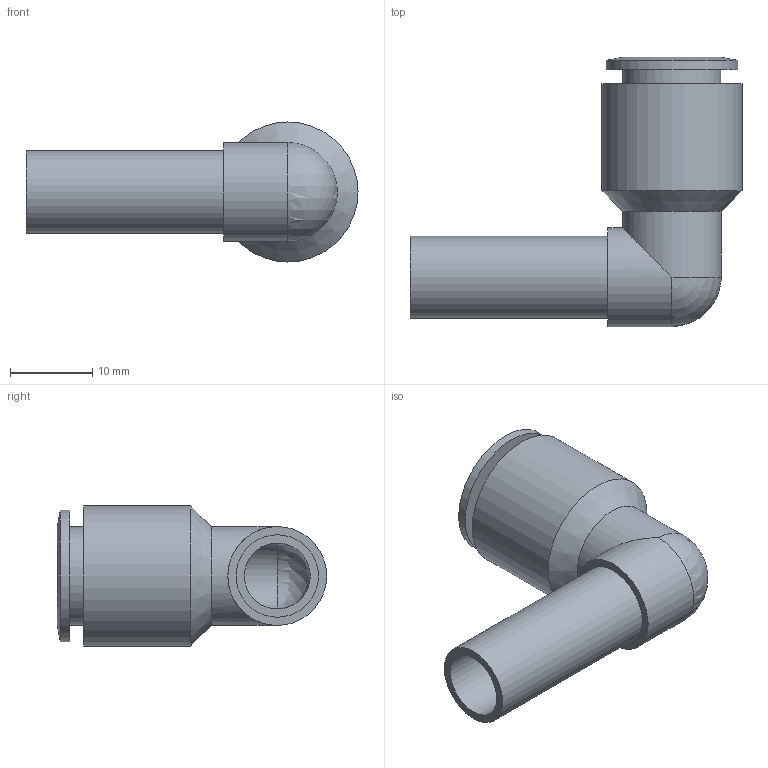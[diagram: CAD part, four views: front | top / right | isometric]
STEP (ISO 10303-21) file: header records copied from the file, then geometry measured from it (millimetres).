
FILE_DESCRIPTION((''),'2;1');
FILE_NAME('C:\Documents and Settings\rivolro1\Documenti\copia di Raccordi\PLASTICA\T04XXL0\T0410L0.stp','2007-10-30T15:45:58',('Rivolro1'),(''),'Autodesk Inventor 2008','Autodesk Inventor 2008','');
FILE_SCHEMA(('AUTOMOTIVE_DESIGN { 1 0 10303 214 1 1 1 1 }'));
Length unit declared in the file: millimetre
Products named in the file (1): T0410L0
Bounding box: 40.3 x 32.7 x 17 mm (x, y, z)
Volume: 3859.6 mm3; surface area: 4316.5 mm2
Topology: 1 solids, 1 shells, 20 faces, 41 edges, 23 vertices
Faces by surface type: cylinder 8, plane 6, bspline 3, cone 2, sphere 1
Full cylindrical faces by diameter (mm): 8 x1, 8.3 x1, 10 x1, 11.9 x1, 12 x2, 16 x1, 17 x1
Entity records: 568 total; most frequent: CARTESIAN_POINT 172, DIRECTION 80, ORIENTED_EDGE 48, AXIS2_PLACEMENT_3D 39, EDGE_LOOP 37, EDGE_CURVE 24, VERTEX_POINT 21, CIRCLE 20
